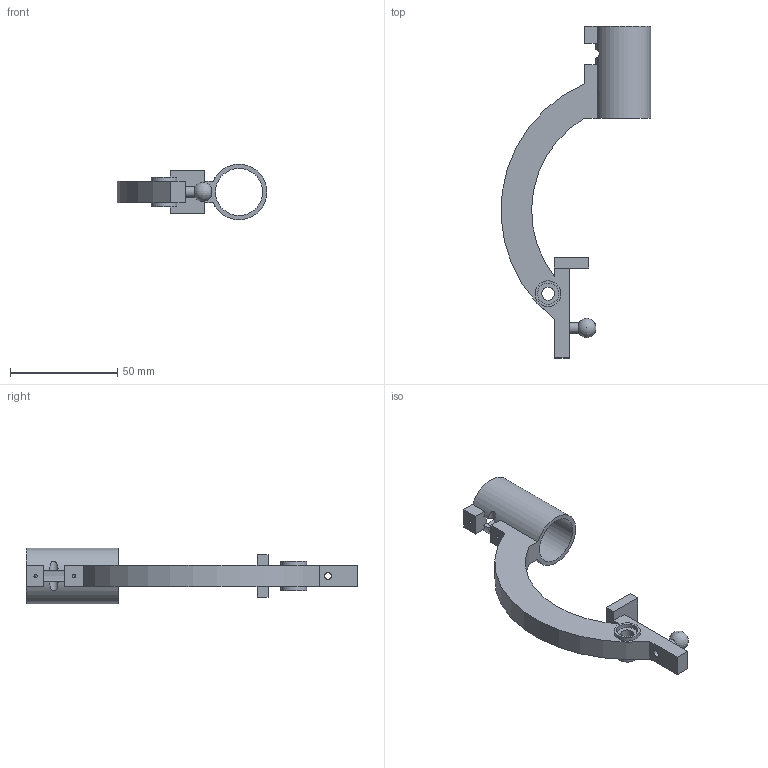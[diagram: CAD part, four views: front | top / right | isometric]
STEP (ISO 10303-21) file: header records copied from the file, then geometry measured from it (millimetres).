
FILE_DESCRIPTION(/* description */ ('Штатив'),/* implementation_level */ '2;1');
FILE_NAME(/* name */ 'D:\ \Работа\JuniorSkills\2018\ОтборочныйЗадание\Микроскоп\STEP\Штатив.stp',/* time_stamp */ '2017-11-09T06:44:14+07:00',/* author */ ('Andrey'),/* organization */ (''),/* preprocessor_version */ 'ST-DEVELOPER v15.6',/* originating_system */ 'Autodesk Inventor 2015',/* authorisation */ '');
FILE_SCHEMA (('AUTOMOTIVE_DESIGN { 1 0 10303 214 3 1 1 }'));
Length unit declared in the file: millimetre
Products named in the file (1): Штатив
Bounding box: 69.92 x 155 x 25.99 mm (x, y, z)
Volume: 28521 mm3; surface area: 15660.1 mm2
Topology: 1 solids, 1 shells, 43 faces, 116 edges, 77 vertices
Faces by surface type: plane 25, cylinder 15, cone 2, sphere 1
Full cylindrical faces by diameter (mm): 1.567 x2, 3 x1, 5 x1, 6 x1, 10 x2, 12 x2, 22 x1
Entity records: 1317 total; most frequent: CARTESIAN_POINT 267, DIRECTION 215, ORIENTED_EDGE 190, EDGE_CURVE 95, AXIS2_PLACEMENT_3D 78, VERTEX_POINT 70, EDGE_LOOP 67, LINE 59
